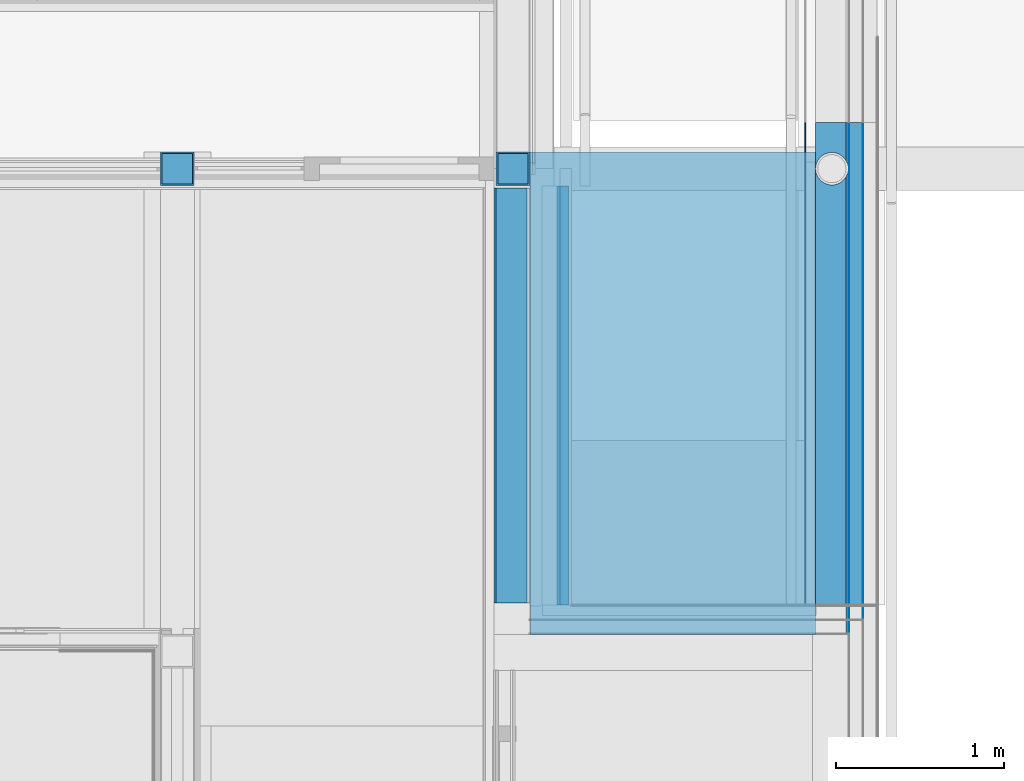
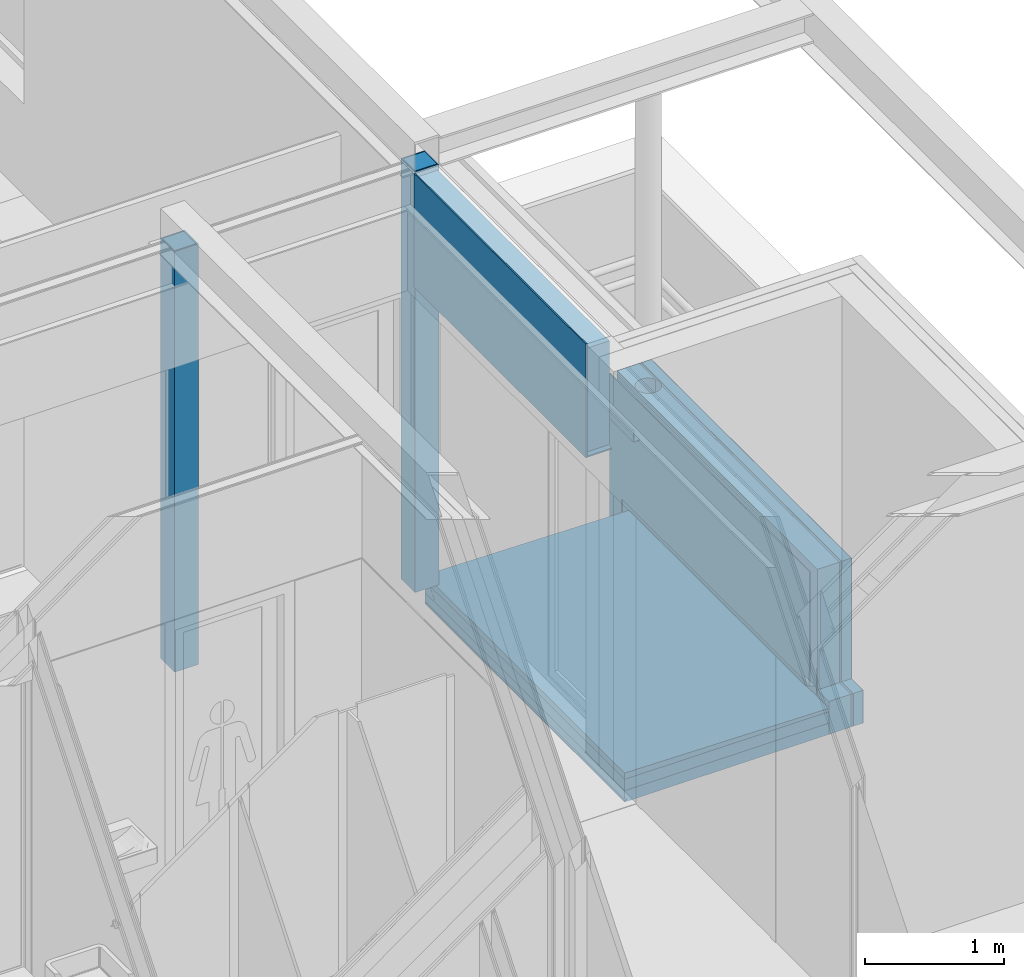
# One storey, part 92 of 137: 17 building element parts, 6 elements without a shape of their own.
"""IFC2X3 building model written with IfcOpenShell, lengths in millimetres."""

from ifc_helpers import new_model, entity, si_unit, converted_unit, derived_unit, money_unit, direction, frame, origin_with_axes, place, context, subcontext, project, spatial, faceted_brep, material, type_object, element, aggregate, save


model = new_model("IFC2X3")

# Units and contexts
model_context = context("Model", 3, precision=0.01, world=origin_with_axes(), true_north=direction((0.0, 1.0)))
body_context = subcontext(model_context, "Body", "Model", "MODEL_VIEW")
ifc_project = project(units=[si_unit("LENGTHUNIT", "METRE", prefix="MILLI"), si_unit("AREAUNIT", "SQUARE_METRE"), si_unit("VOLUMEUNIT", "CUBIC_METRE"), converted_unit("PLANEANGLEUNIT", "DEGREE", entity("IfcPlaneAngleMeasure", 0.0174532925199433), si_unit("PLANEANGLEUNIT", "RADIAN"), dimensions=[0, 0, 0, 0, 0, 0, 0]), money_unit("EUR"), converted_unit("TIMEUNIT", "Year", entity("IfcTimeMeasure", 31556926.0), si_unit("TIMEUNIT", "SECOND"), dimensions=[0, 0, 1, 0, 0, 0, 0]), si_unit("MASSUNIT", "GRAM", prefix="KILO"), si_unit("THERMODYNAMICTEMPERATUREUNIT", "DEGREE_CELSIUS"), si_unit("LUMINOUSINTENSITYUNIT", "LUMEN"), si_unit("ENERGYUNIT", "JOULE", prefix="MEGA"), derived_unit("THERMALCONDUCTANCEUNIT", [(si_unit("POWERUNIT", "WATT"), 1), (si_unit("LENGTHUNIT", "METRE"), -1), (si_unit("THERMODYNAMICTEMPERATUREUNIT", "KELVIN"), -1)]), derived_unit("SPECIFICHEATCAPACITYUNIT", [(si_unit("ENERGYUNIT", "JOULE"), 1), (si_unit("MASSUNIT", "GRAM", prefix="KILO"), -1), (si_unit("THERMODYNAMICTEMPERATUREUNIT", "KELVIN"), -1)]), derived_unit("MASSDENSITYUNIT", [(si_unit("MASSUNIT", "GRAM", prefix="KILO"), 1), (si_unit("VOLUMEUNIT", "CUBIC_METRE"), -1)])], contexts=[model_context])

# Site, building, storey
site_placement = place(None, origin_with_axes())
site = spatial("IfcSite", under=ifc_project, at=site_placement, Name="Site", CompositionType="ELEMENT")
building_placement = place(site_placement, origin_with_axes())
building = spatial("IfcBuilding", under=site, at=building_placement, Name="Naam gebouw", CompositionType="ELEMENT")
storey_placement = place(building_placement, frame((0.0, 0.0, 3960.0), z_axis=(0.0, 0.0, 1.0), x_axis=(1.0, 0.0, 0.0)))
storey = spatial("IfcBuildingStorey", under=building, at=storey_placement, Name="1e verdieping", CompositionType="ELEMENT", Elevation=3960.0)

# Column, building element parts
column_type = type_object("IfcColumnType", Name="200X200X10 200 x 200", PredefinedType="COLUMN")
column_1_placement = place(storey_placement, frame((24499.99903999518, 22324.99984707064, -100.0000000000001), z_axis=(0.0, 0.0, 1.0), x_axis=(1.0, 0.0, 0.0)))
column_1 = element("IfcColumn", 1, at=column_1_placement, inside=storey, type_object=column_type, Name="28_Kolom-x", ObjectType="COLUMN")
ifc_material_1 = material(Name="Beton gewapend C")
building_element_part_1_placement = place(column_1_placement, origin_with_axes())
building_element_part_1 = element("IfcBuildingElementPart", 2, at=building_element_part_1_placement, material=ifc_material_1, Name="Beton gewapend C", context=body_context, shape_type="Brep", body=[
    faceted_brep([(-89.99999999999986, 89.99999999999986, 3685.000029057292), (89.99999999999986, 89.99999999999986, 3685.000029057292), (89.99999999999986, 89.99999999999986, 0.0), (-89.99999999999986, 89.99999999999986, 0.0), (89.99999999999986, -89.99999999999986, 3685.000029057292), (-89.99999999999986, -89.99999999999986, 3685.000029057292), (89.99999999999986, -89.99999999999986, 0.0), (-89.99999999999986, -89.99999999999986, 0.0)], [[[0, 1, 2, 3]], [[4, 1, 0, 5]], [[1, 4, 6, 2]], [[2, 6, 7, 3]], [[5, 0, 3, 7]], [[4, 5, 7, 6]]]),
    faceted_brep([(89.99999999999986, -89.99999999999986, 3695.000029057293), (89.99999999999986, 89.99999999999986, 3695.000029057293), (89.99999999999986, 89.99999999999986, 3699.999999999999), (89.99999999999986, -89.99999999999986, 3699.999999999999), (-89.99999999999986, 89.99999999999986, 3695.000029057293), (-89.99999999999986, -89.99999999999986, 3695.000029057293), (-89.99999999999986, 89.99999999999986, 3699.999999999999), (-89.99999999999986, -89.99999999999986, 3699.999999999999)], [[[0, 1, 2, 3]], [[4, 1, 0, 5]], [[1, 4, 6, 2]], [[2, 6, 7, 3]], [[5, 0, 3, 7]], [[4, 5, 7, 6]]]),
])
ifc_material_2 = material(Name="Metaal - Staal C")
building_element_part_2_placement = place(column_1_placement, origin_with_axes())
building_element_part_2 = element("IfcBuildingElementPart", 3, at=building_element_part_2_placement, material=ifc_material_2, Name="Metaal - Staal C", context=body_context, shape_type="Brep", body=[
    faceted_brep([(-100.0000000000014, -100.0000000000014, 0.0), (100.0000000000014, -100.0000000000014, 0.0), (100.0000000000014, -100.0000000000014, 3699.999999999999), (-100.0000000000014, -100.0000000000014, 3699.999999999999), (-100.0000000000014, 100.0000000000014, 0.0), (100.0000000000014, 100.0000000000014, 0.0), (-89.99999999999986, -89.99999999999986, 0.0), (89.99999999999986, -89.99999999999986, 0.0), (89.99999999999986, 89.99999999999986, 0.0), (-89.99999999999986, 89.99999999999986, 0.0), (100.0000000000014, 100.0000000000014, 3699.999999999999), (-100.0000000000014, 100.0000000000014, 3699.999999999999), (-89.99999999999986, -89.99999999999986, 3699.999999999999), (-89.99999999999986, 89.99999999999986, 3699.999999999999), (89.99999999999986, 89.99999999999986, 3699.999999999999), (89.99999999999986, -89.99999999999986, 3699.999999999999)], [[[0, 1, 2, 3]], [[0, 4, 5, 1], [6, 7, 8, 9]], [[1, 5, 10, 2]], [[3, 2, 10, 11], [12, 13, 14, 15]], [[4, 0, 3, 11]], [[5, 4, 11, 10]], [[7, 6, 12, 15]], [[8, 7, 15, 14]], [[9, 8, 14, 13]], [[6, 9, 13, 12]]]),
])
aggregate(column_1, [building_element_part_1, building_element_part_2])

column_2_placement = place(storey_placement, frame((26500.0, 22324.99984707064, -100.0000000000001), z_axis=(0.0, 0.0, 1.0), x_axis=(1.0, 0.0, 0.0)))
column_2 = element("IfcColumn", 4, at=column_2_placement, inside=storey, type_object=column_type, Name="28_Kolom-x", ObjectType="COLUMN")
building_element_part_3_placement = place(column_2_placement, origin_with_axes())
building_element_part_3 = element("IfcBuildingElementPart", 5, at=building_element_part_3_placement, material=ifc_material_1, Name="Beton gewapend C", context=body_context, shape_type="Brep", body=[
    faceted_brep([(-89.99999999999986, 89.99999999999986, 3683.0), (89.99999999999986, 89.99999999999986, 3683.0), (89.99999999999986, 89.99999999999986, 0.0), (-89.99999999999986, 89.99999999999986, 0.0), (89.99999999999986, -89.99999999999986, 3683.0), (-89.99999999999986, -89.99999999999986, 3683.0), (89.99999999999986, -89.99999999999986, 0.0), (-89.99999999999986, -89.99999999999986, 0.0)], [[[0, 1, 2, 3]], [[4, 1, 0, 5]], [[1, 4, 6, 2]], [[2, 6, 7, 3]], [[5, 0, 3, 7]], [[4, 5, 7, 6]]]),
    faceted_brep([(89.99999999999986, -89.99999999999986, 3695.000000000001), (89.99999999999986, 89.99999999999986, 3695.000000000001), (89.99999999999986, 89.99999999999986, 3699.999999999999), (89.99999999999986, -89.99999999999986, 3699.999999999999), (-89.99999999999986, 89.99999999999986, 3695.000000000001), (-89.99999999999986, -89.99999999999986, 3695.000000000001), (-89.99999999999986, 89.99999999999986, 3699.999999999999), (-89.99999999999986, -89.99999999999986, 3699.999999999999)], [[[0, 1, 2, 3]], [[4, 1, 0, 5]], [[1, 4, 6, 2]], [[2, 6, 7, 3]], [[5, 0, 3, 7]], [[4, 5, 7, 6]]]),
])
building_element_part_4_placement = place(column_2_placement, origin_with_axes())
building_element_part_4 = element("IfcBuildingElementPart", 6, at=building_element_part_4_placement, material=ifc_material_2, Name="Metaal - Staal C", context=body_context, shape_type="Brep", body=[
    faceted_brep([(-100.0000000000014, -100.0000000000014, 0.0), (100.0000000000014, -100.0000000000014, 0.0), (100.0000000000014, -100.0000000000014, 3699.999999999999), (-100.0000000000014, -100.0000000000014, 3699.999999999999), (-100.0000000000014, 100.0000000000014, 0.0), (100.0000000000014, 100.0000000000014, 0.0), (-89.99999999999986, -89.99999999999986, 0.0), (89.99999999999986, -89.99999999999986, 0.0), (89.99999999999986, 89.99999999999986, 0.0), (-89.99999999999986, 89.99999999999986, 0.0), (100.0000000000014, 100.0000000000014, 3699.999999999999), (-100.0000000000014, 100.0000000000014, 3699.999999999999), (-89.99999999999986, -89.99999999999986, 3699.999999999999), (-89.99999999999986, 89.99999999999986, 3699.999999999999), (89.99999999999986, 89.99999999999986, 3699.999999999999), (89.99999999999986, -89.99999999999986, 3699.999999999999)], [[[0, 1, 2, 3]], [[0, 4, 5, 1], [6, 7, 8, 9]], [[1, 5, 10, 2]], [[3, 2, 10, 11], [12, 13, 14, 15]], [[4, 0, 3, 11]], [[5, 4, 11, 10]], [[7, 6, 12, 15]], [[8, 7, 15, 14]], [[9, 8, 14, 13]], [[6, 9, 13, 12]]]),
])
aggregate(column_2, [building_element_part_3, building_element_part_4])

# Slab, building element parts
slab_type = type_object("IfcSlabType", Name="27 Dakterras isolatie 350", PredefinedType="NOTDEFINED")
slab_placement = place(storey_placement, frame((28500.00006871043, 22424.97621300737, -390.0000000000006), z_axis=(0.0, 0.0, 1.0), x_axis=(1.0, 0.0, 0.0)))
slab = element("IfcSlab", 7, at=slab_placement, inside=storey, type_object=slab_type, Name="_Vloer-x", PredefinedType="NOTDEFINED")
ifc_material_3 = material(Name="Isolatie - Kunststof zacht")
building_element_part_5_placement = place(slab_placement, origin_with_axes())
building_element_part_5 = element("IfcBuildingElementPart", 8, at=building_element_part_5_placement, material=ifc_material_3, Name="Isolatie - Kunststof zacht", context=body_context, shape_type="Brep", body=[
    faceted_brep([(-1870.000068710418, 2.910021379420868e-05, 255.065000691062), (-199.0000460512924, 3.096761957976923e-06, 230.0000003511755), (-199.000045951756, 3.096761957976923e-06, 200.0000000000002), (-1870.000068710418, 2.910021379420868e-05, 200.0000000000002), (-199.0000464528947, -2874.975820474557, 229.9999996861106), (-1870.000068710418, -72.51140067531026, 255.0650006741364), (-1885.000068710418, -72.2079915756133, 255.2900006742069), (-1885.000068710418, 2.933363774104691e-05, 255.2900006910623), (-1899.000068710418, 2.9551500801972e-05, 255.5000006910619), (-1899.000068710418, -2874.975820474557, 255.5000000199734), (-199.0000464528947, -2874.975816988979, 200.0000000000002), (-1900.000068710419, -70.31344543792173, 200.0000000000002), (-1900.000068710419, -53.18700998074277, 200.0000000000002), (-1899.000068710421, -53.18700998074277, 200.0000000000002), (-1899.000068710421, 2.9551500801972e-05, 200.0000000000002), (-1885.000068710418, 2.933363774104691e-05, 200.0000000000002), (-1885.000068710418, -129.6392864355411, 200.0000000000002), (-1870.000068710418, -129.6392864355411, 200.0000000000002), (-1899.000068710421, -2874.97579053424, 200.0000000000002), (-1899.000068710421, -70.31344543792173, 200.0000000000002), (-1870.000068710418, -135.7159134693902, 208.1942397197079), (-1885.000068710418, -135.7159134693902, 208.1942397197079), (-1899.000068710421, -64.2368184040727, 208.1942397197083), (-1900.000068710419, -64.2368184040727, 208.1942397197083)], [[[0, 1, 2, 3]], [[4, 1, 0, 5, 6, 7, 8, 9]], [[1, 4, 10, 2]], [[11, 12, 13, 14, 15, 16, 17, 3, 2, 10, 18, 19]], [[5, 0, 3, 17, 20]], [[6, 5, 20, 21]], [[7, 6, 21, 16, 15]], [[8, 7, 15, 14]], [[9, 8, 14, 13, 22, 19, 18]], [[4, 9, 18, 10]], [[12, 11, 23]], [[23, 22, 13, 12]], [[21, 20, 17, 16]], [[22, 23, 11, 19]]]),
])
ifc_material_4 = material(Name="Isolatie - Steenwol hard")
building_element_part_6_placement = place(slab_placement, origin_with_axes())
building_element_part_6 = element("IfcBuildingElementPart", 9, at=building_element_part_6_placement, material=ifc_material_4, Name="Isolatie - Steenwol hard", context=body_context, shape_type="Brep", body=[
    faceted_brep([(-1899.000068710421, 2.9551500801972e-05, 200.0000000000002), (-1899.000068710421, -53.18700998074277, 200.0000000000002), (-1900.000068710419, -53.18700998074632, 200.0000000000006), (-1900.000068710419, -70.31344543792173, 200.0000000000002), (-1899.000068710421, -70.31344543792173, 200.0000000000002), (-1899.000068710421, -2874.97579053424, 200.0000000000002), (-199.0000464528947, -2874.975816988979, 200.0000000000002), (-199.000045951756, 3.096761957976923e-06, 200.0000000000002), (-1870.000068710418, 2.910021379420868e-05, 200.0000000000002), (-1870.000068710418, -129.6392864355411, 200.0000000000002), (-1885.000068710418, -129.6392864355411, 200.0000000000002), (-1885.000068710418, 2.933363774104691e-05, 200.0000000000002), (-1899.000068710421, 2.9551500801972e-05, 160.5579268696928), (-1900.000068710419, 2.956706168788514e-05, 160.5579268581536), (-1900.00002397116, 2.956706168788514e-05, 100.0000000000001), (-1900.000068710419, -119.7960241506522, 99.99999999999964), (-1900.000068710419, -135.7159134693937, 111.8057602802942), (-1899.000068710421, -135.7159134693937, 111.8057602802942), (-1899.000068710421, -2874.97579053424, 100.0000000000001), (-1899.000068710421, -119.7960241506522, 100.0000000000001), (-199.0000464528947, -2874.975816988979, 100.0000000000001), (-199.0000453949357, 3.096761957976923e-06, 100.0000000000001), (-1885.000068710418, 2.933363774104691e-05, 159.4420729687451), (-1870.000068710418, 2.910021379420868e-05, 159.442072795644), (-1870.000068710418, -64.23681840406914, 111.8057602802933), (-1885.000068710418, -64.23681840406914, 111.8057602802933)], [[[0, 1, 2, 3, 4, 5, 6, 7, 8, 9, 10, 11]], [[12, 1, 0]], [[1, 12, 13, 2]], [[3, 2, 13, 14, 15, 16]], [[17, 4, 3, 16]], [[18, 5, 4, 17, 19]], [[6, 5, 18, 20]], [[6, 20, 21, 7]], [[14, 13, 12, 0, 11, 22, 23, 8, 7, 21]], [[24, 9, 8, 23]], [[25, 10, 9, 24]], [[25, 22, 11, 10]], [[18, 19, 15, 14, 21, 20]], [[16, 15, 19, 17]], [[24, 23, 22, 25]]]),
])
building_element_part_7_placement = place(slab_placement, origin_with_axes())
building_element_part_7 = element("IfcBuildingElementPart", 10, at=building_element_part_7_placement, material=ifc_material_4, Name="Isolatie - Steenwol hard", context=body_context, shape_type="Brep", body=[
    faceted_brep([(-199.0000449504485, -199.9999989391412, 0.0), (-199.0000464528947, -199.9999989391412, 29.99999999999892), (-199.0000450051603, 1.060861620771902e-06, 29.99999999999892), (-199.0000453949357, 3.096761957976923e-06, 100.0000000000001), (-199.0000464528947, -2874.975816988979, 100.0000000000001), (-199.0000464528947, -2874.975816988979, 0.0), (-200.0000845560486, -199.9999989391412, 0.0), (-200.0000845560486, -199.9999989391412, 29.99999999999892), (-200.0000845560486, 1.060861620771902e-06, 29.99999999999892), (-200.0000845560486, 1.060861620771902e-06, 0.0), (-1900.00002397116, 2.956706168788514e-05, 0.0), (-1900.00002397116, 2.956706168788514e-05, 100.0000000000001), (-1885.000068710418, 2.933363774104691e-05, 25.00000000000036), (-1885.000068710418, 2.933363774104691e-05, 13.00000000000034), (-1884.000068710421, 2.931807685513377e-05, 13.00000000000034), (-1884.000068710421, 2.931807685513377e-05, 25.00000000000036), (-1900.000068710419, -119.7960241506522, 100.0000000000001), (-1899.000068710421, -119.7960241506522, 100.0000000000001), (-1899.000068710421, -2874.97579053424, 100.0000000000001), (-1899.000068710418, -2874.97579053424, 25.00000000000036), (-1884.000068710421, -2874.975790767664, 25.00000000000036), (-1884.000068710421, -2874.975790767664, 13.00000000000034), (-1900.000068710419, -2874.975790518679, 13.00000000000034), (-1900.000068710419, -2874.975790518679, 0.0), (-1900.000068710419, -2.477838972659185, 13.00000000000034), (-1885.000068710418, -2.477838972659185, 13.00000000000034), (-1885.000068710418, -18.65965761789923, 25.00000000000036), (-1899.000068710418, -18.65965761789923, 25.00000000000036)], [[[0, 1, 2, 3, 4, 5]], [[1, 0, 6, 7]], [[8, 2, 1, 7]], [[8, 9, 10, 11, 3, 2], [12, 13, 14, 15]], [[16, 17, 18, 4, 3, 11]], [[4, 18, 19, 20, 21, 22, 23, 5]], [[6, 0, 5, 23, 10, 9]], [[9, 8, 7, 6]], [[22, 24, 16, 11, 10, 23]], [[25, 13, 12, 26]], [[21, 14, 13, 25, 24, 22]], [[20, 15, 14, 21]], [[26, 12, 15, 20, 19, 27]], [[27, 17, 16, 24, 25, 26]], [[19, 18, 17, 27]]]),
])
aggregate(slab, [building_element_part_5, building_element_part_6, building_element_part_7])

# Wall, building element parts
wall_type = type_object("IfcWallType", Name="21 Borstwering STO Buitengevelisolatie 439", PredefinedType="NOTDEFINED")
wall_placement = place(storey_placement, frame((28500.00002397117, 19550.00039292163, -390.0000000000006), z_axis=(0.0, 0.0, 1.0), x_axis=(0.0, 1.0, 0.0)))
wall = element("IfcWall", 11, at=wall_placement, inside=storey, type_object=wall_type, Name="21_Wand-x")
ifc_material_5 = material(Name="Eternit wit")
building_element_part_8_placement = place(wall_placement, origin_with_axes())
building_element_part_8 = element("IfcBuildingElementPart", 12, at=building_element_part_8_placement, material=ifc_material_5, Name="Eternit wit", context=body_context, shape_type="Brep", body=[
    faceted_brep([(176.0000000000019, 255.0000026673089, 480.0000000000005), (176.0000000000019, 255.0000025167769, 350.0000000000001), (2874.975824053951, 255.0000026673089, 350.0000000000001), (2874.975824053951, 255.000000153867, 0.0), (3050.975817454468, 254.999999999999, 0.0), (3050.975817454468, 254.999999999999, 1350.000062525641), (167.9999999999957, 254.999999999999, 1350.000062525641), (167.9999999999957, 255.000002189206, 480.0000000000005), (176.0000000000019, 263.0000000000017, 480.0000000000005), (176.0000000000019, 263.0000000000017, 350.0000000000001), (2874.975824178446, 263.0000000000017, 350.0000000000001), (2874.975824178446, 263.0000000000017, 0.0), (3050.975817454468, 263.0000000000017, 0.0), (3050.975817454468, 263.0000000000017, 1350.000062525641), (167.9999999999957, 263.0000000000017, 1350.000062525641), (167.9999999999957, 263.0000000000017, 480.0000000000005)], [[[0, 1, 2, 3, 4, 5, 6, 7]], [[1, 0, 8, 9]], [[1, 9, 10, 2]], [[3, 2, 10, 11]], [[4, 3, 11, 12]], [[12, 13, 5, 4]], [[5, 13, 14, 6]], [[15, 7, 6, 14]], [[0, 7, 15, 8]], [[8, 15, 14, 13, 12, 11, 10, 9]]]),
])
ifc_material_6 = material(Name="Isolatie - Kunststof hard")
building_element_part_9_placement = place(wall_placement, origin_with_axes())
building_element_part_9 = element("IfcBuildingElementPart", 13, at=building_element_part_9_placement, material=ifc_material_6, Name="Isolatie - Kunststof hard", context=body_context, shape_type="Brep", body=[
    faceted_brep([(114.0000000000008, 199.0000016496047, 0.0), (114.0000000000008, 195.999999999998, 0.0), (176.0000000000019, 195.999999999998, 0.0), (176.0000000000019, 199.000001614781, 0.0), (2674.9758211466, 199.0000002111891, 0.0), (2674.9758211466, 14.99999970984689, 0.0), (0.0, 14.99999764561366, 0.0), (0.0, 199.0000017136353, 0.0), (114.0000000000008, 199.0000017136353, 290.0000000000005), (114.0000000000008, 195.999999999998, 290.0000000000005), (167.9999999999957, 195.999999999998, 290.0000000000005), (167.9999999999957, 195.999999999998, 480.0000000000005), (176.0000000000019, 195.999999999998, 480.0000000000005), (176.0000000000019, 199.0000017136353, 480.0000000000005), (167.9999999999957, 199.0000014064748, 480.0000000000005), (167.9999999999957, 199.0000000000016, 1350.000062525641), (3050.975817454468, 199.0000000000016, 1350.000062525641), (3050.975817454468, 199.0000000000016, 0.0), (2874.975821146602, 199.0000000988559, 0.0), (2874.975821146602, 199.0000017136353, 29.99999999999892), (2674.9758211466, 199.0000017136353, 29.99999999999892), (2674.9758211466, 15.00000000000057, 29.99999999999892), (2874.975821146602, 15.00000000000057, 29.99999999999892), (2874.975821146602, 14.99999986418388, 0.0), (3050.975817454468, 15.00000000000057, 0.0), (3050.975817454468, 15.00000000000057, 1350.000062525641), (2819.642642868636, 15.00000000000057, 1350.000062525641), (2819.642642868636, 15.00000000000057, 290.0000000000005), (2730.356265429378, 15.00000000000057, 290.0000000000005), (2730.356265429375, 15.00000000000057, 1350.000062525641), (167.9999999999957, 15.00000000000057, 1350.000062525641), (167.9999999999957, 14.99999764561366, 290.0000000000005), (0.0, 14.99999764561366, 290.0000000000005), (0.0, 199.0000017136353, 290.0000000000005), (2870.863660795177, 86.21684773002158, 1350.000062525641), (2863.097312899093, 59.76709580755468, 1350.000062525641), (2848.193800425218, 36.57677773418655, 1350.000062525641), (2827.360517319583, 18.52463516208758, 1350.000062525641), (2722.638390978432, 18.52463516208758, 1350.000062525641), (2701.805107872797, 36.57677773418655, 1350.000062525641), (2686.901595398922, 59.76709580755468, 1350.000062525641), (2679.135247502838, 86.21684773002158, 1350.000062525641), (2679.135247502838, 113.7832319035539, 1350.000062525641), (2686.901595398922, 140.2329838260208, 1350.000062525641), (2701.805107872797, 163.4233018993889, 1350.000062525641), (2722.638390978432, 181.4754444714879, 1350.000062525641), (2747.713656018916, 192.9269343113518, 1350.000062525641), (2774.999454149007, 196.8500398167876, 1350.000062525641), (2802.285252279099, 192.9269343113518, 1350.000062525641), (2827.360517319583, 181.4754444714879, 1350.000062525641), (2848.193800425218, 163.4233018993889, 1350.000062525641), (2863.097312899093, 140.2329838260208, 1350.000062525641), (2870.863660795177, 113.7832319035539, 1350.000062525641), (2827.360517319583, 18.52463516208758, 290.0000000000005), (2701.805107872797, 36.57677773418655, 290.0000000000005), (2722.638390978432, 18.52463516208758, 290.0000000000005), (2848.193800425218, 36.57677773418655, 290.0000000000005), (2863.097312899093, 59.76709580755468, 290.0000000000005), (2870.863660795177, 86.21684773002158, 290.0000000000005), (2870.863660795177, 113.7832319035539, 290.0000000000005), (2863.097312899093, 140.2329838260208, 290.0000000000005), (2848.193800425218, 163.4233018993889, 290.0000000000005), (2827.360517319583, 181.4754444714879, 290.0000000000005), (2802.285252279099, 192.9269343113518, 290.0000000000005), (2774.999454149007, 196.8500398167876, 290.0000000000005), (2747.713656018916, 192.9269343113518, 290.0000000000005), (2722.638390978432, 181.4754444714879, 290.0000000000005), (2701.805107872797, 163.4233018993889, 290.0000000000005), (2686.901595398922, 140.2329838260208, 290.0000000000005), (2679.135247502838, 113.7832319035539, 290.0000000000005), (2679.135247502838, 86.21684773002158, 290.0000000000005), (2686.901595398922, 59.76709580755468, 290.0000000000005)], [[[0, 1, 2, 3, 4, 5, 6, 7]], [[8, 9, 1, 0]], [[2, 1, 9, 10, 11, 12]], [[3, 2, 12, 13]], [[13, 14, 15, 16, 17, 18, 19, 20, 4, 3]], [[4, 20, 21, 5]], [[6, 5, 21, 22, 23, 24, 25, 26, 27, 28, 29, 30, 31, 32]], [[32, 33, 7, 6]], [[8, 0, 7, 33]], [[9, 8, 33, 32, 31, 10]], [[11, 10, 31, 30, 15, 14]], [[11, 14, 13, 12]], [[34, 35, 36, 37, 26, 25, 16, 15, 30, 29, 38, 39, 40, 41, 42, 43, 44, 45, 46, 47, 48, 49, 50, 51, 52]], [[25, 24, 17, 16]], [[17, 24, 23, 18]], [[19, 18, 23, 22]], [[19, 22, 21, 20]], [[37, 53, 27, 26]], [[54, 55, 28, 27, 53, 56, 57, 58, 59, 60, 61, 62, 63, 64, 65, 66, 67, 68, 69, 70, 71]], [[28, 55, 38, 29]], [[58, 57, 35, 34]], [[57, 56, 36, 35]], [[56, 53, 37, 36]], [[55, 54, 39, 38]], [[54, 71, 40, 39]], [[71, 70, 41, 40]], [[70, 69, 42, 41]], [[69, 68, 43, 42]], [[68, 67, 44, 43]], [[67, 66, 45, 44]], [[66, 65, 46, 45]], [[65, 64, 47, 46]], [[64, 63, 48, 47]], [[63, 62, 49, 48]], [[62, 61, 50, 49]], [[61, 60, 51, 50]], [[60, 59, 52, 51]], [[59, 58, 34, 52]]]),
])
ifc_material_7 = material(Name="Cementgebonden plaatmateriaal")
building_element_part_10_placement = place(wall_placement, origin_with_axes())
building_element_part_10 = element("IfcBuildingElementPart", 14, at=building_element_part_10_placement, material=ifc_material_7, Name="Cementgebonden plaatmateriaal", context=body_context, shape_type="Brep", body=[
    faceted_brep([(2674.9758211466, 14.99999764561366, 29.99999999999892), (2874.975821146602, 14.99999764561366, 29.99999999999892), (2874.975821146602, 3.981678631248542e-05, 29.99999999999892), (2674.9758211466, 3.981678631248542e-05, 29.99999999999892), (2874.975821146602, 14.99999986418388, 0.0), (2674.9758211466, 14.99999970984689, 0.0), (0.0, 14.99999764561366, 0.0), (0.0, 14.99999764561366, 290.0000000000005), (167.9999999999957, 14.99999764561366, 290.0000000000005), (167.9999999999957, 15.00000000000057, 1350.000062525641), (2730.356265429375, 15.00000000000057, 1350.000062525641), (2730.356270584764, 14.99999764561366, 290.0000000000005), (2819.642637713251, 14.99999764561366, 290.0000000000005), (2819.642642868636, 15.00000000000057, 1350.000062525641), (3050.975817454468, 15.00000000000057, 1350.000062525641), (3050.975817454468, 15.00000000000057, 0.0), (2874.975821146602, 3.981678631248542e-05, 0.0), (0.0, 1.937152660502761e-07, 0.0), (2674.9758211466, 3.981678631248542e-05, 0.0), (3050.975817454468, 0.0, 0.0), (3050.975817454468, 0.0, 1350.000062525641), (167.9999999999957, 0.0, 1350.000062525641), (167.9999999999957, 1.937152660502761e-07, 290.0000000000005), (0.0, 1.521023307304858e-07, 290.0000000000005), (2802.285252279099, 7.073145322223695, 1350.000062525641), (2774.999454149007, 3.150039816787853, 1350.000062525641), (2747.713656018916, 7.073145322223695, 1350.000062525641), (2747.713656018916, 7.073145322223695, 290.0000000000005), (2802.285252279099, 7.073145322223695, 290.0000000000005), (2774.999454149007, 3.150039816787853, 290.0000000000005)], [[[0, 1, 2, 3]], [[4, 1, 0, 5, 6, 7, 8, 9, 10, 11, 12, 13, 14, 15]], [[4, 16, 2, 1]], [[17, 18, 3, 2, 16, 19, 20, 21, 22, 23]], [[0, 3, 18, 5]], [[6, 5, 18, 17]], [[7, 6, 17, 23]], [[22, 8, 7, 23]], [[21, 9, 8, 22]], [[14, 13, 24, 25, 26, 10, 9, 21, 20]], [[11, 10, 26, 27]], [[28, 12, 11, 27, 29]], [[28, 24, 13, 12]], [[19, 15, 14, 20]], [[19, 16, 4, 15]], [[29, 25, 24, 28]], [[27, 26, 25, 29]]]),
])
ifc_material_8 = material(Name="STO lijmlaag")
building_element_part_11_placement = place(wall_placement, origin_with_axes())
building_element_part_11 = element("IfcBuildingElementPart", 15, at=building_element_part_11_placement, material=ifc_material_8, Name="STO lijmlaag", context=body_context, shape_type="Brep", body=[
    faceted_brep([(167.9999999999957, -4.000000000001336, 1350.000062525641), (3050.975817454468, -4.000000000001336, 1350.000062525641), (3050.975817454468, 0.0, 1350.000062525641), (167.9999999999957, 0.0, 1350.000062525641), (3050.975817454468, -4.000000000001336, 0.0), (167.9999999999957, -4.00000174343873, 290.0000000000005), (4.000000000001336, -4.000000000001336, 290.0000000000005), (0.0, -4.000000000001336, 290.0000000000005), (0.0, -4.00000174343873, 0.0), (3050.975817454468, 0.0, 0.0), (0.0, 1.937152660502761e-07, 0.0), (0.0, 0.0, 290.0000000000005), (4.000000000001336, 0.0, 290.0000000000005), (167.9999999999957, 1.937152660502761e-07, 290.0000000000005)], [[[0, 1, 2, 3]], [[4, 1, 0, 5, 6, 7, 8]], [[4, 9, 2, 1]], [[10, 11, 12, 13, 3, 2, 9]], [[0, 3, 13, 5]], [[12, 11, 7, 6, 5, 13]], [[11, 10, 8, 7]], [[8, 10, 9, 4]]]),
])
ifc_material_9 = material(Name="Isolatie - STO EPS")
building_element_part_12_placement = place(wall_placement, origin_with_axes())
building_element_part_12 = element("IfcBuildingElementPart", 16, at=building_element_part_12_placement, material=ifc_material_9, Name="Isolatie - STO EPS", context=body_context, shape_type="Brep", body=[
    faceted_brep([(3050.975817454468, -83.99999999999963, 1350.000062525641), (3050.975817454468, -4.000000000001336, 1350.000062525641), (167.9999999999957, -4.000000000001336, 1350.000062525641), (167.9999999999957, -83.99999999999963, 1350.000062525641), (3050.975817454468, -4.000000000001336, 0.0), (3050.975817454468, -83.99999999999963, 0.0), (0.0, -4.000000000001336, 290.0000000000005), (83.99999999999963, -4.000000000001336, 290.0000000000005), (167.9999999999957, -4.00000174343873, 290.0000000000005), (0.0, -4.00000174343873, 0.0), (167.9999999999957, -84.00000123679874, 290.0000000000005), (83.99999999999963, -83.99999999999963, 290.0000000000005), (0.0, -83.99999999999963, 290.0000000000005), (0.0, -84.00000123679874, 0.0)], [[[0, 1, 2, 3]], [[4, 1, 0, 5]], [[6, 7, 8, 2, 1, 4, 9]], [[2, 8, 10, 3]], [[0, 3, 10, 11, 12, 13, 5]], [[9, 4, 5, 13]], [[6, 12, 11, 10, 8, 7]], [[9, 13, 12, 6]]]),
])
building_element_part_13_placement = place(wall_placement, origin_with_axes())
building_element_part_13 = element("IfcBuildingElementPart", 17, at=building_element_part_13_placement, material=ifc_material_8, Name="STO lijmlaag", context=body_context, shape_type="Brep", body=[
    faceted_brep([(3050.975817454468, -88.00000000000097, 1350.000062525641), (3050.975817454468, -83.99999999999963, 1350.000062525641), (167.9999999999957, -83.99999999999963, 1350.000062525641), (167.9999999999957, -88.00000000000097, 1350.000062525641), (3050.975817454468, -83.99999999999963, 0.0), (3050.975817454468, -88.00000000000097, 0.0), (0.0, -83.99999999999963, 290.0000000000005), (88.00000000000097, -83.99999999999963, 290.0000000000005), (167.9999999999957, -84.00000123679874, 290.0000000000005), (0.0, -84.00000123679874, 0.0), (167.9999999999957, -88.00000000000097, 290.0000000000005), (88.00000000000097, -88.00000000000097, 290.0000000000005), (0.0, -88.00000000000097, 290.0000000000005), (0.0, -88.00000317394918, 0.0)], [[[0, 1, 2, 3]], [[4, 1, 0, 5]], [[6, 7, 8, 2, 1, 4, 9]], [[2, 8, 10, 3]], [[0, 3, 10, 11, 12, 13, 5]], [[9, 4, 5, 13]], [[6, 12, 11, 10, 8, 7]], [[9, 13, 12, 6]]]),
])
aggregate(wall, [building_element_part_8, building_element_part_9, building_element_part_10, building_element_part_11, building_element_part_12, building_element_part_13])

# Beam, building element part
beam_type_1 = type_object("IfcBeamType", Name="41 Latei/geveldrager 158 x 112", PredefinedType="BEAM")
beam_1_placement = place(storey_placement, frame((26780.0, 22221.00039272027, 2610.0), z_axis=(0.0, 0.0, 1.0), x_axis=(-1.0, 0.0, 0.0)))
beam_1 = element("IfcBeam", 18, at=beam_1_placement, inside=storey, type_object=beam_type_1, Name="_Regenwaterafvoer-x", ObjectType="BEAM")
building_element_part_14_placement = place(beam_1_placement, origin_with_axes())
building_element_part_14 = element("IfcBuildingElementPart", 19, at=building_element_part_14_placement, material=ifc_material_2, Name="Metaal - Staal C", context=body_context, shape_type="Brep", body=[
    faceted_brep([(-50.00000000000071, 2494.999999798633, 6.55651533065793e-07), (-50.00000000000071, 2494.999999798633, -3.000000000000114), (-50.00000000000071, 0.0, -3.000000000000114), (-50.00000000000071, 0.0, 6.55651533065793e-07), (-5.9603877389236e-08, 2494.999999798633, 6.55651533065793e-07), (-5.9603877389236e-08, 2494.999999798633, 99.3417707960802), (16.54654975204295, 2494.999999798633, 108.8949262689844), (18.04655007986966, 2494.999999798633, 106.2968498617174), (3.000000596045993, 2494.999999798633, 96.99999988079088), (3.000000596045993, 2494.999999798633, 6.55651533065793e-07), (3.000000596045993, 2494.999999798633, -3.000000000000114), (3.000000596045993, 0.0, -3.000000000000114), (3.000000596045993, 0.0, 6.55651533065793e-07), (3.000000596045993, 0.0, 96.99999988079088), (18.04655007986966, 0.0, 106.2968498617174), (16.54654975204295, 0.0, 108.8949262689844), (-5.9603877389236e-08, 0.0, 99.3417707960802), (-5.9603877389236e-08, 0.0, 6.55651533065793e-07)], [[[0, 1, 2, 3]], [[0, 4, 5, 6, 7, 8, 9, 10, 1]], [[1, 10, 11, 2]], [[3, 2, 11, 12, 13, 14, 15, 16, 17]], [[4, 0, 3, 17]], [[5, 4, 17, 16]], [[6, 5, 16, 15]], [[7, 6, 15, 14]], [[8, 7, 14, 13]], [[9, 8, 13, 12]], [[10, 9, 12, 11]]]),
])
aggregate(beam_1, [building_element_part_14])

# Beam, building element parts
beam_type_2 = type_object("IfcBeamType", Name="31 HSB boven kozijnen 214 x 1000", PredefinedType="BEAM")
beam_2_placement = place(storey_placement, frame((26386.00000214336, 22211.000393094, 2600.000000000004), z_axis=(0.0, 0.0, 1.0), x_axis=(-1.0, 0.0, 0.0)))
beam_2 = element("IfcBeam", 20, at=beam_2_placement, inside=storey, type_object=beam_type_2, Name="28_Balk-x", ObjectType="BEAM")
ifc_material_10 = material(Name="Gipsplaat")
building_element_part_15_placement = place(beam_2_placement, origin_with_axes())
building_element_part_15 = element("IfcBuildingElementPart", 21, at=building_element_part_15_placement, material=ifc_material_10, Name="Gipsplaat", context=body_context, shape_type="Brep", body=[
    faceted_brep([(-11.99999661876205, 2475.000000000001, 0.0), (9.341707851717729e-06, 2475.000000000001, 0.0), (9.341711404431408e-06, 0.0, 0.0), (-11.99999661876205, 0.0, 0.0), (-11.99999661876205, 2475.000000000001, 999.9999999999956), (9.341707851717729e-06, 2475.000000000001, 999.9999999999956), (9.341707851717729e-06, 0.0, 999.9999999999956), (-11.99999661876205, 0.0, 999.9999999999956)], [[[0, 1, 2, 3]], [[0, 4, 5, 1]], [[1, 5, 6, 2]], [[3, 2, 6, 7]], [[4, 0, 3, 7]], [[5, 4, 7, 6]]]),
])
building_element_part_16_placement = place(beam_2_placement, origin_with_axes())
building_element_part_16 = element("IfcBuildingElementPart", 22, at=building_element_part_16_placement, material=ifc_material_10, Name="Gipsplaat", context=body_context, shape_type="Brep", body=[
    faceted_brep([(-214.0000025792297, 2475.000000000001, 12.00000596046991), (-214.0000025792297, 2475.000000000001, 0.0), (-214.0000025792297, 0.0, 0.0), (-214.0000025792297, 0.0, 12.00000596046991), (-11.99999661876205, 2475.000000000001, 12.00000596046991), (-11.99999661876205, 2475.000000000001, 0.0), (-11.99999661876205, 0.0, 0.0), (-11.99999661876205, 0.0, 12.00000596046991)], [[[0, 1, 2, 3]], [[0, 4, 5, 1]], [[1, 5, 6, 2]], [[3, 2, 6, 7]], [[4, 0, 3, 7]], [[5, 4, 7, 6]]]),
])
ifc_material_11 = material(Name="ALG - ISOLATIE")
building_element_part_17_placement = place(beam_2_placement, origin_with_axes())
building_element_part_17 = element("IfcBuildingElementPart", 23, at=building_element_part_17_placement, material=ifc_material_11, Name="ALG - ISOLATIE", context=body_context, shape_type="Brep", body=[
    faceted_brep([(-12.00000000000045, 2475.000000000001, 49.99999999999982), (-12.00000000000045, 2475.000000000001, 961.9999999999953), (-12.00000000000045, 0.0, 961.9999999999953), (-12.00000000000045, 0.0, 49.99999999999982), (-196.0000000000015, 2475.000000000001, 49.99999999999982), (-196.0000000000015, 2475.000000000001, 961.9999999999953), (-196.0000000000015, 0.0, 961.9999999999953), (-195.999999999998, 0.0, 49.99999999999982)], [[[0, 1, 2, 3]], [[0, 4, 5, 1]], [[1, 5, 6, 2]], [[3, 2, 6, 7]], [[4, 0, 3, 7]], [[5, 4, 7, 6]]]),
])
aggregate(beam_2, [building_element_part_15, building_element_part_16, building_element_part_17])

save(model, "model.ifc")
